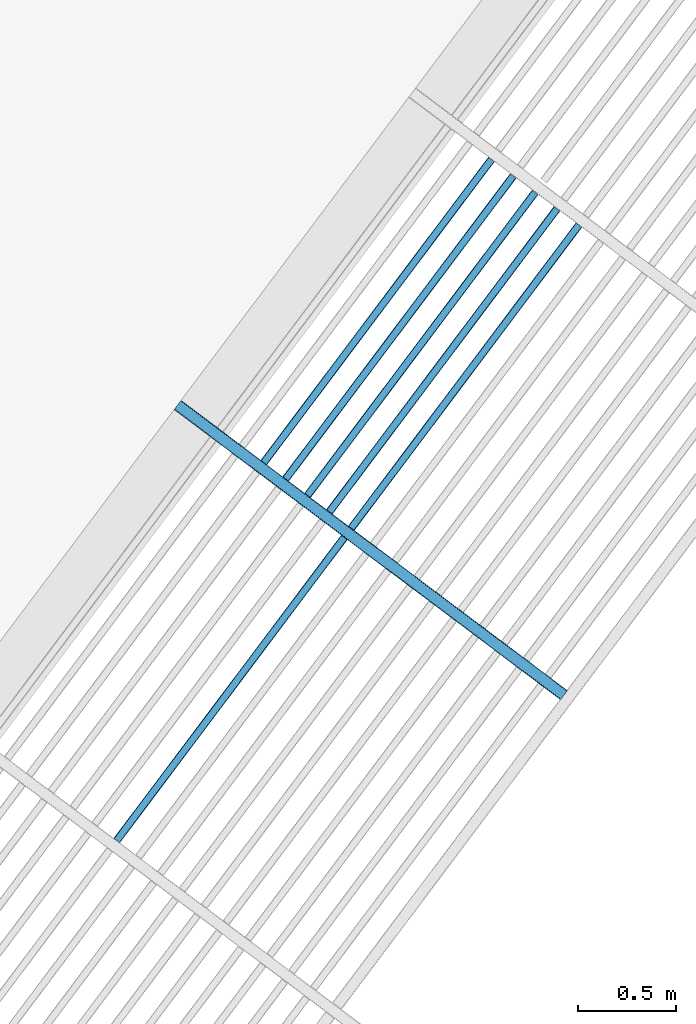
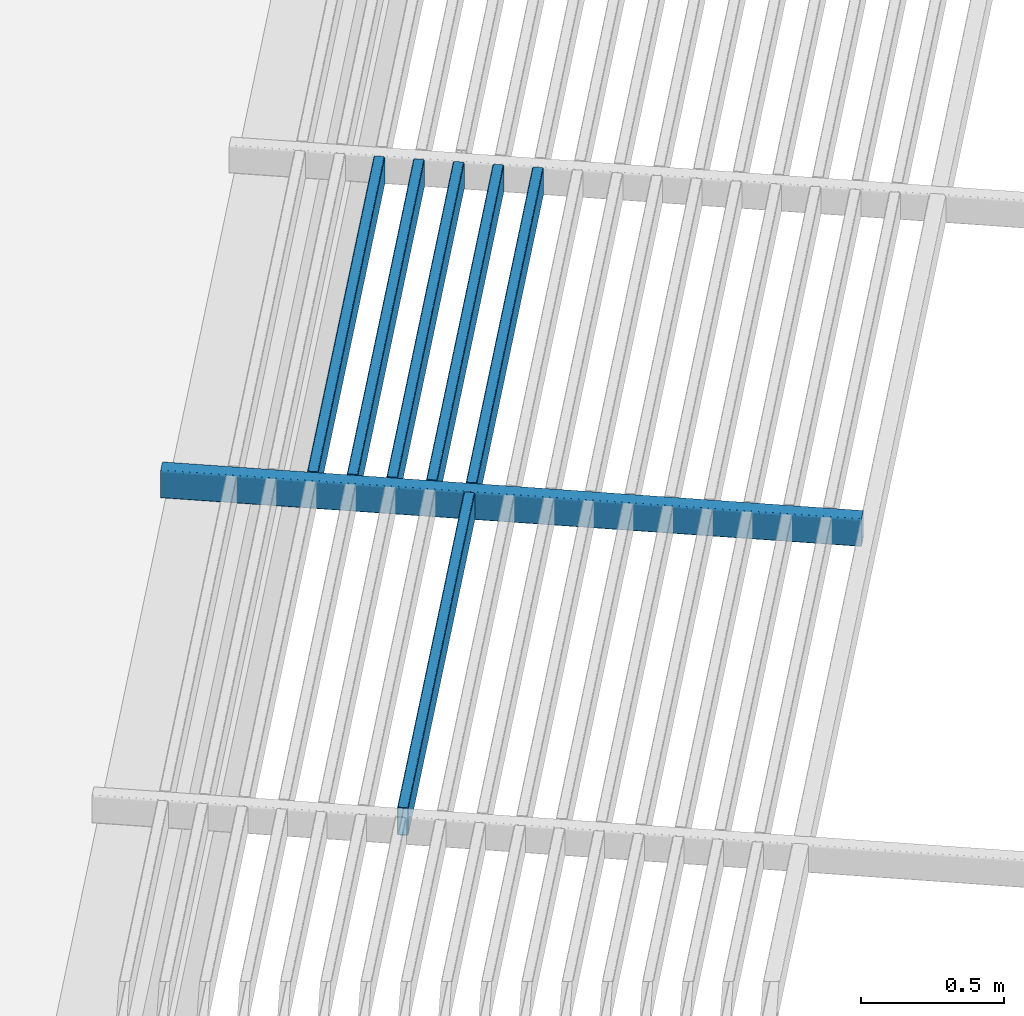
# One storey, part 53 of 95: 7 beams.
"""IFC2X3 building model written with IfcOpenShell, lengths in metres."""

from ifc_helpers import new_model, entity, si_unit, converted_unit, derived_unit, direction, frame, frame_2d, origin, place, context, subcontext, project, spatial, polyline, circle_curve, parameter, trimmed, segment, composite_curve, outline, extrude, material, type_object, element, save


model = new_model("IFC2X3")

# Units and contexts
model_context = context("Model", 3, precision=1e-05, world=origin(), true_north=direction((6.123031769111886e-17, 1.0)))
body_context = subcontext(model_context, "Body", "Model", "MODEL_VIEW")
ifc_project = project(units=[si_unit("LENGTHUNIT", "METRE"), si_unit("AREAUNIT", "SQUARE_METRE"), si_unit("VOLUMEUNIT", "CUBIC_METRE"), converted_unit("PLANEANGLEUNIT", "DEGREE", entity("IfcRatioMeasure", 0.017453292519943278), si_unit("PLANEANGLEUNIT", "RADIAN"), dimensions=[0, 0, 0, 0, 0, 0, 0]), si_unit("MASSUNIT", "GRAM", prefix="KILO"), derived_unit("MASSDENSITYUNIT", [(si_unit("MASSUNIT", "GRAM", prefix="KILO"), 1), (si_unit("LENGTHUNIT", "METRE"), -3)]), derived_unit("IONCONCENTRATIONUNIT", [(si_unit("MASSUNIT", "GRAM", prefix="KILO"), 1), (si_unit("LENGTHUNIT", "METRE"), -3)]), derived_unit("MOMENTOFINERTIAUNIT", [(si_unit("LENGTHUNIT", "METRE"), 4)]), si_unit("TIMEUNIT", "SECOND"), si_unit("FREQUENCYUNIT", "HERTZ"), si_unit("THERMODYNAMICTEMPERATUREUNIT", "DEGREE_CELSIUS"), derived_unit("THERMALTRANSMITTANCEUNIT", [(si_unit("MASSUNIT", "GRAM", prefix="KILO"), 1), (si_unit("THERMODYNAMICTEMPERATUREUNIT", "KELVIN"), -1), (si_unit("TIMEUNIT", "SECOND"), -3)]), derived_unit("THERMALCONDUCTANCEUNIT", [(si_unit("MASSUNIT", "GRAM", prefix="KILO"), 1), (si_unit("THERMODYNAMICTEMPERATUREUNIT", "KELVIN"), -1), (si_unit("TIMEUNIT", "SECOND"), -3), (si_unit("LENGTHUNIT", "METRE"), 1)]), derived_unit("VOLUMETRICFLOWRATEUNIT", [(si_unit("LENGTHUNIT", "METRE"), 3), (si_unit("TIMEUNIT", "SECOND"), -1)]), derived_unit("MASSFLOWRATEUNIT", [(si_unit("MASSUNIT", "GRAM", prefix="KILO"), 1), (si_unit("TIMEUNIT", "SECOND"), -1)]), derived_unit("ROTATIONALFREQUENCYUNIT", [(si_unit("TIMEUNIT", "SECOND"), -1)]), si_unit("ELECTRICCURRENTUNIT", "AMPERE"), si_unit("ELECTRICVOLTAGEUNIT", "VOLT"), si_unit("POWERUNIT", "WATT"), si_unit("FORCEUNIT", "NEWTON", prefix="KILO"), si_unit("ILLUMINANCEUNIT", "LUX"), si_unit("LUMINOUSFLUXUNIT", "LUMEN"), si_unit("LUMINOUSINTENSITYUNIT", "CANDELA"), derived_unit("USERDEFINED", [(si_unit("MASSUNIT", "GRAM", prefix="KILO"), -1), (si_unit("LENGTHUNIT", "METRE"), -2), (si_unit("TIMEUNIT", "SECOND"), 3), (si_unit("LUMINOUSFLUXUNIT", "LUMEN"), 1)]), derived_unit("USERDEFINED", [(si_unit("MASSUNIT", "GRAM", prefix="KILO"), 1), (si_unit("TIMEUNIT", "SECOND"), -3), (si_unit("LENGTHUNIT", "METRE"), 3), (si_unit("ELECTRICCURRENTUNIT", "AMPERE"), -2)]), derived_unit("SOUNDPOWERUNIT", [(si_unit("MASSUNIT", "GRAM", prefix="KILO"), 1), (si_unit("TIMEUNIT", "SECOND"), -3), (si_unit("LENGTHUNIT", "METRE"), 2)]), derived_unit("SOUNDPRESSUREUNIT", [(si_unit("MASSUNIT", "GRAM", prefix="KILO"), 1), (si_unit("LENGTHUNIT", "METRE"), -1), (si_unit("TIMEUNIT", "SECOND"), -2)]), derived_unit("LINEARVELOCITYUNIT", [(si_unit("LENGTHUNIT", "METRE"), 1), (si_unit("TIMEUNIT", "SECOND"), -1)]), si_unit("PRESSUREUNIT", "PASCAL"), derived_unit("USERDEFINED", [(si_unit("MASSUNIT", "GRAM", prefix="KILO"), 1), (si_unit("LENGTHUNIT", "METRE"), -2), (si_unit("TIMEUNIT", "SECOND"), -2)]), derived_unit("LINEARFORCEUNIT", [(si_unit("MASSUNIT", "GRAM", prefix="KILO"), 1), (si_unit("TIMEUNIT", "SECOND"), -2)]), derived_unit("PLANARFORCEUNIT", [(si_unit("MASSUNIT", "GRAM", prefix="KILO"), 1), (si_unit("LENGTHUNIT", "METRE"), -1), (si_unit("TIMEUNIT", "SECOND"), -2)]), derived_unit("SPECIFICHEATCAPACITYUNIT", [(si_unit("THERMODYNAMICTEMPERATUREUNIT", "KELVIN"), -1), (si_unit("LENGTHUNIT", "METRE"), 2), (si_unit("TIMEUNIT", "SECOND"), -2)]), derived_unit("HEATINGVALUEUNIT", [(si_unit("LENGTHUNIT", "METRE"), 2), (si_unit("TIMEUNIT", "SECOND"), -2)]), derived_unit("VAPORPERMEABILITYUNIT", [(si_unit("LENGTHUNIT", "METRE"), -1), (si_unit("TIMEUNIT", "SECOND"), 1)]), derived_unit("DYNAMICVISCOSITYUNIT", [(si_unit("MASSUNIT", "GRAM", prefix="KILO"), 1), (si_unit("TIMEUNIT", "SECOND"), -1), (si_unit("LENGTHUNIT", "METRE"), -1)]), derived_unit("THERMALEXPANSIONCOEFFICIENTUNIT", [(si_unit("THERMODYNAMICTEMPERATUREUNIT", "KELVIN"), -1)]), derived_unit("MODULUSOFELASTICITYUNIT", [(si_unit("MASSUNIT", "GRAM", prefix="KILO"), 1), (si_unit("LENGTHUNIT", "METRE"), -1), (si_unit("TIMEUNIT", "SECOND"), -2)]), derived_unit("ISOTHERMALMOISTURECAPACITYUNIT", [(si_unit("LENGTHUNIT", "METRE"), 3), (si_unit("MASSUNIT", "GRAM", prefix="KILO"), -1)]), derived_unit("MOISTUREDIFFUSIVITYUNIT", [(si_unit("TIMEUNIT", "SECOND"), -1), (si_unit("LENGTHUNIT", "METRE"), 2)])], contexts=[model_context])

# Site, building, storey
site_placement = place(None, origin())
site = spatial("IfcSite", under=ifc_project, at=site_placement, Name="Default", CompositionType="ELEMENT")
building_placement = place(site_placement, frame((0.0, 0.0, 235.0), z_axis=(0.0, 0.0, 1.0), x_axis=(-0.7996477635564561, 0.6004693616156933, 0.0)))
building = spatial("IfcBuilding", under=site, at=building_placement, CompositionType="ELEMENT")
storey_placement = place(building_placement, frame((0.0, 0.0, 3.400000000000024)))
storey = spatial("IfcBuildingStorey", under=building, at=storey_placement, Name="PC- Coberta STR", CompositionType="ELEMENT", Elevation=3.400000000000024)

# Beams
ifc_material = material(Name="_Acer- STR")
beam_type_1 = type_object("IfcBeamType", Name="STR- V- Acer- RHS- Rectangular- T1:120x60RHS", PredefinedType="NOTDEFINED")
beam_1_placement = place(storey_placement, frame((64.27114768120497, -22.44678703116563, 0.49840472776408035), z_axis=(0.0, 0.0, 1.0), x_axis=(-1.0, 0.0, 0.0)))
element("IfcBeam", 1, at=beam_1_placement, inside=storey, type_object=beam_type_1, material=ifc_material, Name="STR- V- Acer- RHS- Rectangular- T1:120x60RHS", ObjectType="STR- V- Acer- RHS- Rectangular- T1:120x60RHS", context=body_context, shape_type="SweptSolid", body=[
    extrude(outline(composite_curve([segment(trimmed(circle_curve(frame_2d((-0.021999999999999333, -0.05199999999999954), x_axis=(1.0, 0.0)), 0.008), [parameter(180.0000000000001)], [parameter(269.99999999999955)], True, "PARAMETER"), True, "CONTINUOUS"), segment(polyline([(-0.022000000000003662, -0.05999999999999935), (0.021999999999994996, -0.05999999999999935)]), True, "CONTINUOUS"), segment(trimmed(circle_curve(frame_2d((0.021999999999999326, -0.05199999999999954), x_axis=(1.0, 0.0)), 0.008), [parameter(269.99999999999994)], [parameter(5.088887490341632e-14)], True, "PARAMETER"), True, "CONTINUOUS"), segment(polyline([(0.029999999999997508, -0.05199999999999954), (0.029999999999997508, 0.052000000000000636)]), True, "CONTINUOUS"), segment(trimmed(circle_curve(frame_2d((0.021999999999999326, 0.052000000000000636), x_axis=(1.0, 0.0)), 0.008), [parameter(359.99999999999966)], [parameter(89.99999999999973)], True, "PARAMETER"), True, "CONTINUOUS"), segment(polyline([(0.021999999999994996, 0.06000000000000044), (-0.022000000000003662, 0.06000000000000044)]), True, "CONTINUOUS"), segment(trimmed(circle_curve(frame_2d((-0.021999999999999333, 0.052000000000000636), x_axis=(1.0, 0.0)), 0.008), [parameter(90.00000000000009)], [parameter(180.00000000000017)], True, "PARAMETER"), True, "CONTINUOUS"), segment(polyline([(-0.030000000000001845, 0.052000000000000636), (-0.030000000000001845, -0.05199999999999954)]), True, "CONTINUOUS")], self_intersect=False), holes=[composite_curve([segment(polyline([(0.021999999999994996, -0.056000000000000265), (-0.022000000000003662, -0.056000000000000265)]), True, "CONTINUOUS"), segment(trimmed(circle_curve(frame_2d((-0.021999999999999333, -0.05200000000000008), x_axis=(1.0, 0.0)), 0.004), [parameter(179.99999999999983)], [parameter(269.9999999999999)], True, "PARAMETER"), False, "CONTINUOUS"), segment(polyline([(-0.026000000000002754, -0.05200000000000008), (-0.026000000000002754, 0.051999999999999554)]), True, "CONTINUOUS"), segment(trimmed(circle_curve(frame_2d((-0.021999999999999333, 0.051999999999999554), x_axis=(1.0, 0.0)), 0.004), [parameter(90.00000000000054)], [parameter(180.00000000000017)], True, "PARAMETER"), False, "CONTINUOUS"), segment(polyline([(-0.022000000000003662, 0.055999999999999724), (0.021999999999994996, 0.055999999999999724)]), True, "CONTINUOUS"), segment(trimmed(circle_curve(frame_2d((0.021999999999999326, 0.051999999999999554), x_axis=(1.0, 0.0)), 0.004), [parameter(0.0)], [parameter(90.00000000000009)], True, "PARAMETER"), False, "CONTINUOUS"), segment(polyline([(0.02599999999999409, 0.051999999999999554), (0.02599999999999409, -0.05200000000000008)]), True, "CONTINUOUS"), segment(trimmed(circle_curve(frame_2d((0.021999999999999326, -0.05200000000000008), x_axis=(1.0, 0.0)), 0.004), [parameter(270.00000000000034)], [parameter(3.5622212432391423e-13)], True, "PARAMETER"), False, "CONTINUOUS")], self_intersect=False)]), frame((-2.4740000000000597, -0.03159527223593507, 0.061595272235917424), z_axis=(1.0, 0.0, 0.0), x_axis=(0.0, -1.0, 0.0)), (0.0, 0.0, 1.0), 2.474000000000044),
])
beam_type_2 = type_object("IfcBeamType", Name="STR- V- Acer- RHS- Rectangular- T1:120x40RHS -", PredefinedType="NOTDEFINED")
beam_2_placement = place(storey_placement, frame((65.63355240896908, -22.38519175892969, 0.4984047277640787), z_axis=(0.0, 0.0, 1.0), x_axis=(0.0, -1.0, 0.0)))
element("IfcBeam", 2, at=beam_2_placement, inside=storey, type_object=beam_type_2, material=ifc_material, Name="STR- V- Acer- RHS- Rectangular- T1:120x40RHS -", ObjectType="STR- V- Acer- RHS- Rectangular- T1:120x40RHS -", context=body_context, shape_type="SweptSolid", body=[
    extrude(outline(composite_curve([segment(trimmed(circle_curve(frame_2d((-0.01400000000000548, -0.053999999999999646), x_axis=(1.0, 0.0)), 0.006), [parameter(180.0000000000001)], [parameter(269.99999999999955)], True, "PARAMETER"), True, "CONTINUOUS"), segment(polyline([(-0.01400000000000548, -0.0599999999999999), (0.013999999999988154, -0.0599999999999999)]), True, "CONTINUOUS"), segment(trimmed(circle_curve(frame_2d((0.013999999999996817, -0.053999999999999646), x_axis=(1.0, 0.0)), 0.006), [parameter(269.99999999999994)], [parameter(1.0177774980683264e-13)], True, "PARAMETER"), True, "CONTINUOUS"), segment(polyline([(0.019999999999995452, -0.053999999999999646), (0.019999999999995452, 0.05400000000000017)]), True, "CONTINUOUS"), segment(trimmed(circle_curve(frame_2d((0.013999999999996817, 0.05400000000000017), x_axis=(1.0, 0.0)), 0.006), [parameter(359.9999999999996)], [parameter(89.99999999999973)], True, "PARAMETER"), True, "CONTINUOUS"), segment(polyline([(0.013999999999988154, 0.059999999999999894), (-0.01400000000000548, 0.059999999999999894)]), True, "CONTINUOUS"), segment(trimmed(circle_curve(frame_2d((-0.01400000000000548, 0.05400000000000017), x_axis=(1.0, 0.0)), 0.006), [parameter(90.00000000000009)], [parameter(180.00000000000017)], True, "PARAMETER"), True, "CONTINUOUS"), segment(polyline([(-0.02000000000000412, 0.05400000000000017), (-0.02000000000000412, -0.05400000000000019)]), True, "CONTINUOUS")], self_intersect=False), holes=[composite_curve([segment(polyline([(0.013999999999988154, -0.05700000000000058), (-0.01400000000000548, -0.05700000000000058)]), True, "CONTINUOUS"), segment(trimmed(circle_curve(frame_2d((-0.01400000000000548, -0.05400000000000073), x_axis=(1.0, 0.0)), 0.003), [parameter(179.99999999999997)], [parameter(269.9999999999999)], True, "PARAMETER"), False, "CONTINUOUS"), segment(polyline([(-0.017000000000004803, -0.05400000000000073), (-0.017000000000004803, 0.05399999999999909)]), True, "CONTINUOUS"), segment(trimmed(circle_curve(frame_2d((-0.01400000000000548, 0.05399999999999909), x_axis=(1.0, 0.0)), 0.003), [parameter(90.00000000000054)], [parameter(180.0000000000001)], True, "PARAMETER"), False, "CONTINUOUS"), segment(polyline([(-0.01400000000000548, 0.056999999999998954), (0.013999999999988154, 0.056999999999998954)]), True, "CONTINUOUS"), segment(trimmed(circle_curve(frame_2d((0.013999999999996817, 0.05399999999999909), x_axis=(1.0, 0.0)), 0.003), [parameter(0.0)], [parameter(90.00000000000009)], True, "PARAMETER"), False, "CONTINUOUS"), segment(polyline([(0.016999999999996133, 0.05399999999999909), (0.016999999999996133, -0.05400000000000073)]), True, "CONTINUOUS"), segment(trimmed(circle_curve(frame_2d((0.013999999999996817, -0.05400000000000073), x_axis=(1.0, 0.0)), 0.003), [parameter(270.00000000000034)], [parameter(3.053332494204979e-13)], True, "PARAMETER"), False, "CONTINUOUS")], self_intersect=False)]), frame((-1.9399999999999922, 0.02159527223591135, 0.06159527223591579), z_axis=(1.0, 0.0, 0.0), x_axis=(0.0, -1.0, 0.0)), (0.0, 0.0, 1.0), 1.9399999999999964),
])
beam_3_placement = place(storey_placement, frame((66.19355240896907, -24.385191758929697, 0.4984047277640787), z_axis=(0.0, 0.0, 1.0), x_axis=(0.0, -1.0, 0.0)))
element("IfcBeam", 3, at=beam_3_placement, inside=storey, type_object=beam_type_2, material=ifc_material, Name="STR- V- Acer- RHS- Rectangular- T1:120x40RHS -", ObjectType="STR- V- Acer- RHS- Rectangular- T1:120x40RHS -", context=body_context, shape_type="SweptSolid", body=[
    extrude(outline(composite_curve([segment(trimmed(circle_curve(frame_2d((-0.01400000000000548, -0.053999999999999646), x_axis=(1.0, 0.0)), 0.006), [parameter(180.0000000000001)], [parameter(269.99999999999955)], True, "PARAMETER"), True, "CONTINUOUS"), segment(polyline([(-0.01400000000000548, -0.0599999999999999), (0.013999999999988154, -0.0599999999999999)]), True, "CONTINUOUS"), segment(trimmed(circle_curve(frame_2d((0.013999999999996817, -0.053999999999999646), x_axis=(1.0, 0.0)), 0.006), [parameter(269.99999999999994)], [parameter(1.0177774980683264e-13)], True, "PARAMETER"), True, "CONTINUOUS"), segment(polyline([(0.019999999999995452, -0.053999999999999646), (0.019999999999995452, 0.05400000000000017)]), True, "CONTINUOUS"), segment(trimmed(circle_curve(frame_2d((0.013999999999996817, 0.05400000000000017), x_axis=(1.0, 0.0)), 0.006), [parameter(359.9999999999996)], [parameter(89.99999999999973)], True, "PARAMETER"), True, "CONTINUOUS"), segment(polyline([(0.013999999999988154, 0.059999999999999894), (-0.01400000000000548, 0.059999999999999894)]), True, "CONTINUOUS"), segment(trimmed(circle_curve(frame_2d((-0.01400000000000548, 0.05400000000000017), x_axis=(1.0, 0.0)), 0.006), [parameter(90.00000000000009)], [parameter(180.00000000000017)], True, "PARAMETER"), True, "CONTINUOUS"), segment(polyline([(-0.02000000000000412, 0.05400000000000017), (-0.02000000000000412, -0.05400000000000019)]), True, "CONTINUOUS")], self_intersect=False), holes=[composite_curve([segment(polyline([(0.013999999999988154, -0.05700000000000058), (-0.01400000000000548, -0.05700000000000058)]), True, "CONTINUOUS"), segment(trimmed(circle_curve(frame_2d((-0.01400000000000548, -0.05400000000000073), x_axis=(1.0, 0.0)), 0.003), [parameter(179.99999999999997)], [parameter(269.9999999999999)], True, "PARAMETER"), False, "CONTINUOUS"), segment(polyline([(-0.017000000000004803, -0.05400000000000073), (-0.017000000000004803, 0.05399999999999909)]), True, "CONTINUOUS"), segment(trimmed(circle_curve(frame_2d((-0.01400000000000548, 0.05399999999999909), x_axis=(1.0, 0.0)), 0.003), [parameter(90.00000000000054)], [parameter(180.0000000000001)], True, "PARAMETER"), False, "CONTINUOUS"), segment(polyline([(-0.01400000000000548, 0.056999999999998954), (0.013999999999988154, 0.056999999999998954)]), True, "CONTINUOUS"), segment(trimmed(circle_curve(frame_2d((0.013999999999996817, 0.05399999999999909), x_axis=(1.0, 0.0)), 0.003), [parameter(0.0)], [parameter(90.00000000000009)], True, "PARAMETER"), False, "CONTINUOUS"), segment(polyline([(0.016999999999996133, 0.05399999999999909), (0.016999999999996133, -0.05400000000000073)]), True, "CONTINUOUS"), segment(trimmed(circle_curve(frame_2d((0.013999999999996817, -0.05400000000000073), x_axis=(1.0, 0.0)), 0.003), [parameter(270.00000000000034)], [parameter(3.053332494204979e-13)], True, "PARAMETER"), False, "CONTINUOUS")], self_intersect=False)]), frame((-1.9399999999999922, 0.02159527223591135, 0.06159527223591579), z_axis=(1.0, 0.0, 0.0), x_axis=(0.0, -1.0, 0.0)), (0.0, 0.0, 1.0), 1.9399999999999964),
])
beam_4_placement = place(storey_placement, frame((66.05355240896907, -24.385191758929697, 0.4984047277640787), z_axis=(0.0, 0.0, 1.0), x_axis=(0.0, -1.0, 0.0)))
element("IfcBeam", 4, at=beam_4_placement, inside=storey, type_object=beam_type_2, material=ifc_material, Name="STR- V- Acer- RHS- Rectangular- T1:120x40RHS -", ObjectType="STR- V- Acer- RHS- Rectangular- T1:120x40RHS -", context=body_context, shape_type="SweptSolid", body=[
    extrude(outline(composite_curve([segment(trimmed(circle_curve(frame_2d((-0.013999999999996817, -0.053999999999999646), x_axis=(1.0, 0.0)), 0.006), [parameter(180.0000000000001)], [parameter(269.99999999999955)], True, "PARAMETER"), True, "CONTINUOUS"), segment(polyline([(-0.013999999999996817, -0.0599999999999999), (0.013999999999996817, -0.0599999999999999)]), True, "CONTINUOUS"), segment(trimmed(circle_curve(frame_2d((0.01400000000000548, -0.053999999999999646), x_axis=(1.0, 0.0)), 0.006), [parameter(269.99999999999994)], [parameter(1.0177774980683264e-13)], True, "PARAMETER"), True, "CONTINUOUS"), segment(polyline([(0.020000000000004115, -0.053999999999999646), (0.020000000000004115, 0.05400000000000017)]), True, "CONTINUOUS"), segment(trimmed(circle_curve(frame_2d((0.01400000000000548, 0.05400000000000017), x_axis=(1.0, 0.0)), 0.006), [parameter(359.9999999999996)], [parameter(89.99999999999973)], True, "PARAMETER"), True, "CONTINUOUS"), segment(polyline([(0.013999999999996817, 0.059999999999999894), (-0.013999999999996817, 0.059999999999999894)]), True, "CONTINUOUS"), segment(trimmed(circle_curve(frame_2d((-0.013999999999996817, 0.05400000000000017), x_axis=(1.0, 0.0)), 0.006), [parameter(90.00000000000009)], [parameter(180.00000000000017)], True, "PARAMETER"), True, "CONTINUOUS"), segment(polyline([(-0.019999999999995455, 0.05400000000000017), (-0.019999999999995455, -0.05400000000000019)]), True, "CONTINUOUS")], self_intersect=False), holes=[composite_curve([segment(polyline([(0.013999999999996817, -0.05700000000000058), (-0.013999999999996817, -0.05700000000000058)]), True, "CONTINUOUS"), segment(trimmed(circle_curve(frame_2d((-0.013999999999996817, -0.05400000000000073), x_axis=(1.0, 0.0)), 0.003), [parameter(179.99999999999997)], [parameter(269.9999999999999)], True, "PARAMETER"), False, "CONTINUOUS"), segment(polyline([(-0.01699999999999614, -0.05400000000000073), (-0.01699999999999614, 0.05399999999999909)]), True, "CONTINUOUS"), segment(trimmed(circle_curve(frame_2d((-0.013999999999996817, 0.05399999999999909), x_axis=(1.0, 0.0)), 0.003), [parameter(90.00000000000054)], [parameter(180.0000000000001)], True, "PARAMETER"), False, "CONTINUOUS"), segment(polyline([(-0.013999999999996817, 0.056999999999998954), (0.013999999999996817, 0.056999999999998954)]), True, "CONTINUOUS"), segment(trimmed(circle_curve(frame_2d((0.01400000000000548, 0.05399999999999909), x_axis=(1.0, 0.0)), 0.003), [parameter(0.0)], [parameter(90.00000000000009)], True, "PARAMETER"), False, "CONTINUOUS"), segment(polyline([(0.017000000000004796, 0.05399999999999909), (0.017000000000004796, -0.05400000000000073)]), True, "CONTINUOUS"), segment(trimmed(circle_curve(frame_2d((0.01400000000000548, -0.05400000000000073), x_axis=(1.0, 0.0)), 0.003), [parameter(270.00000000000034)], [parameter(3.053332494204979e-13)], True, "PARAMETER"), False, "CONTINUOUS")], self_intersect=False)]), frame((-1.9399999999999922, 0.021595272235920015, 0.06159527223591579), z_axis=(1.0, 0.0, 0.0), x_axis=(0.0, -1.0, 0.0)), (0.0, 0.0, 1.0), 1.9399999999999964),
])
beam_5_placement = place(storey_placement, frame((65.91355240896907, -24.385191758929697, 0.4984047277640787), z_axis=(0.0, 0.0, 1.0), x_axis=(0.0, -1.0, 0.0)))
element("IfcBeam", 5, at=beam_5_placement, inside=storey, type_object=beam_type_2, material=ifc_material, Name="STR- V- Acer- RHS- Rectangular- T1:120x40RHS -", ObjectType="STR- V- Acer- RHS- Rectangular- T1:120x40RHS -", context=body_context, shape_type="SweptSolid", body=[
    extrude(outline(composite_curve([segment(trimmed(circle_curve(frame_2d((-0.013999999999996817, -0.053999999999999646), x_axis=(1.0, 0.0)), 0.006), [parameter(180.0000000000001)], [parameter(269.99999999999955)], True, "PARAMETER"), True, "CONTINUOUS"), segment(polyline([(-0.013999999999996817, -0.0599999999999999), (0.013999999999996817, -0.0599999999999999)]), True, "CONTINUOUS"), segment(trimmed(circle_curve(frame_2d((0.01400000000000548, -0.053999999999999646), x_axis=(1.0, 0.0)), 0.006), [parameter(269.99999999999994)], [parameter(1.0177774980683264e-13)], True, "PARAMETER"), True, "CONTINUOUS"), segment(polyline([(0.020000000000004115, -0.053999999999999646), (0.020000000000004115, 0.05400000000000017)]), True, "CONTINUOUS"), segment(trimmed(circle_curve(frame_2d((0.01400000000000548, 0.05400000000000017), x_axis=(1.0, 0.0)), 0.006), [parameter(359.9999999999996)], [parameter(89.99999999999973)], True, "PARAMETER"), True, "CONTINUOUS"), segment(polyline([(0.013999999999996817, 0.059999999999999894), (-0.013999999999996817, 0.059999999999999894)]), True, "CONTINUOUS"), segment(trimmed(circle_curve(frame_2d((-0.013999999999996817, 0.05400000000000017), x_axis=(1.0, 0.0)), 0.006), [parameter(90.00000000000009)], [parameter(180.00000000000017)], True, "PARAMETER"), True, "CONTINUOUS"), segment(polyline([(-0.019999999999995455, 0.05400000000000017), (-0.019999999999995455, -0.05400000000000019)]), True, "CONTINUOUS")], self_intersect=False), holes=[composite_curve([segment(polyline([(0.013999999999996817, -0.05700000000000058), (-0.013999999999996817, -0.05700000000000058)]), True, "CONTINUOUS"), segment(trimmed(circle_curve(frame_2d((-0.013999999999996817, -0.05400000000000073), x_axis=(1.0, 0.0)), 0.003), [parameter(179.99999999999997)], [parameter(269.9999999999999)], True, "PARAMETER"), False, "CONTINUOUS"), segment(polyline([(-0.01699999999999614, -0.05400000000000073), (-0.01699999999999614, 0.05399999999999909)]), True, "CONTINUOUS"), segment(trimmed(circle_curve(frame_2d((-0.013999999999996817, 0.05399999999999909), x_axis=(1.0, 0.0)), 0.003), [parameter(90.00000000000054)], [parameter(180.0000000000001)], True, "PARAMETER"), False, "CONTINUOUS"), segment(polyline([(-0.013999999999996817, 0.056999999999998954), (0.013999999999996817, 0.056999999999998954)]), True, "CONTINUOUS"), segment(trimmed(circle_curve(frame_2d((0.01400000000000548, 0.05399999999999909), x_axis=(1.0, 0.0)), 0.003), [parameter(0.0)], [parameter(90.00000000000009)], True, "PARAMETER"), False, "CONTINUOUS"), segment(polyline([(0.017000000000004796, 0.05399999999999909), (0.017000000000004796, -0.05400000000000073)]), True, "CONTINUOUS"), segment(trimmed(circle_curve(frame_2d((0.01400000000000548, -0.05400000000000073), x_axis=(1.0, 0.0)), 0.003), [parameter(270.00000000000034)], [parameter(3.053332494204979e-13)], True, "PARAMETER"), False, "CONTINUOUS")], self_intersect=False)]), frame((-1.9399999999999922, 0.021595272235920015, 0.06159527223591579), z_axis=(1.0, 0.0, 0.0), x_axis=(0.0, -1.0, 0.0)), (0.0, 0.0, 1.0), 1.9399999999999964),
])
beam_6_placement = place(storey_placement, frame((65.77355240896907, -24.385191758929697, 0.4984047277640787), z_axis=(0.0, 0.0, 1.0), x_axis=(0.0, -1.0, 0.0)))
element("IfcBeam", 6, at=beam_6_placement, inside=storey, type_object=beam_type_2, material=ifc_material, Name="STR- V- Acer- RHS- Rectangular- T1:120x40RHS -", ObjectType="STR- V- Acer- RHS- Rectangular- T1:120x40RHS -", context=body_context, shape_type="SweptSolid", body=[
    extrude(outline(composite_curve([segment(trimmed(circle_curve(frame_2d((-0.013999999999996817, -0.053999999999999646), x_axis=(1.0, 0.0)), 0.006), [parameter(180.0000000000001)], [parameter(269.99999999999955)], True, "PARAMETER"), True, "CONTINUOUS"), segment(polyline([(-0.013999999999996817, -0.0599999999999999), (0.013999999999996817, -0.0599999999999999)]), True, "CONTINUOUS"), segment(trimmed(circle_curve(frame_2d((0.01400000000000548, -0.053999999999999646), x_axis=(1.0, 0.0)), 0.006), [parameter(269.99999999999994)], [parameter(1.0177774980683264e-13)], True, "PARAMETER"), True, "CONTINUOUS"), segment(polyline([(0.020000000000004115, -0.053999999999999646), (0.020000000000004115, 0.05400000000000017)]), True, "CONTINUOUS"), segment(trimmed(circle_curve(frame_2d((0.01400000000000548, 0.05400000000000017), x_axis=(1.0, 0.0)), 0.006), [parameter(359.9999999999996)], [parameter(89.99999999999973)], True, "PARAMETER"), True, "CONTINUOUS"), segment(polyline([(0.013999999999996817, 0.059999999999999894), (-0.013999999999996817, 0.059999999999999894)]), True, "CONTINUOUS"), segment(trimmed(circle_curve(frame_2d((-0.013999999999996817, 0.05400000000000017), x_axis=(1.0, 0.0)), 0.006), [parameter(90.00000000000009)], [parameter(180.00000000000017)], True, "PARAMETER"), True, "CONTINUOUS"), segment(polyline([(-0.019999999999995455, 0.05400000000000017), (-0.019999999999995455, -0.05400000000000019)]), True, "CONTINUOUS")], self_intersect=False), holes=[composite_curve([segment(polyline([(0.013999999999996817, -0.05700000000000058), (-0.013999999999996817, -0.05700000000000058)]), True, "CONTINUOUS"), segment(trimmed(circle_curve(frame_2d((-0.013999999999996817, -0.05400000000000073), x_axis=(1.0, 0.0)), 0.003), [parameter(179.99999999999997)], [parameter(269.9999999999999)], True, "PARAMETER"), False, "CONTINUOUS"), segment(polyline([(-0.01699999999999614, -0.05400000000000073), (-0.01699999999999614, 0.05399999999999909)]), True, "CONTINUOUS"), segment(trimmed(circle_curve(frame_2d((-0.013999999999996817, 0.05399999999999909), x_axis=(1.0, 0.0)), 0.003), [parameter(90.00000000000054)], [parameter(180.0000000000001)], True, "PARAMETER"), False, "CONTINUOUS"), segment(polyline([(-0.013999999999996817, 0.056999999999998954), (0.013999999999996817, 0.056999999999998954)]), True, "CONTINUOUS"), segment(trimmed(circle_curve(frame_2d((0.01400000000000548, 0.05399999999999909), x_axis=(1.0, 0.0)), 0.003), [parameter(0.0)], [parameter(90.00000000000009)], True, "PARAMETER"), False, "CONTINUOUS"), segment(polyline([(0.017000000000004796, 0.05399999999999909), (0.017000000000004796, -0.05400000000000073)]), True, "CONTINUOUS"), segment(trimmed(circle_curve(frame_2d((0.01400000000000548, -0.05400000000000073), x_axis=(1.0, 0.0)), 0.003), [parameter(270.00000000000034)], [parameter(3.053332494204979e-13)], True, "PARAMETER"), False, "CONTINUOUS")], self_intersect=False)]), frame((-1.9399999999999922, 0.021595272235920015, 0.06159527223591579), z_axis=(1.0, 0.0, 0.0), x_axis=(0.0, -1.0, 0.0)), (0.0, 0.0, 1.0), 1.9399999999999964),
])
beam_7_placement = place(storey_placement, frame((65.63355240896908, -24.385191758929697, 0.4984047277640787), z_axis=(0.0, 0.0, 1.0), x_axis=(0.0, -1.0, 0.0)))
element("IfcBeam", 7, at=beam_7_placement, inside=storey, type_object=beam_type_2, material=ifc_material, Name="STR- V- Acer- RHS- Rectangular- T1:120x40RHS -", ObjectType="STR- V- Acer- RHS- Rectangular- T1:120x40RHS -", context=body_context, shape_type="SweptSolid", body=[
    extrude(outline(composite_curve([segment(trimmed(circle_curve(frame_2d((-0.01399999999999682, -0.053999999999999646), x_axis=(1.0, 0.0)), 0.006), [parameter(180.0000000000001)], [parameter(269.99999999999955)], True, "PARAMETER"), True, "CONTINUOUS"), segment(polyline([(-0.01399999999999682, -0.0599999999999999), (0.013999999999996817, -0.0599999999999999)]), True, "CONTINUOUS"), segment(trimmed(circle_curve(frame_2d((0.014000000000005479, -0.053999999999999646), x_axis=(1.0, 0.0)), 0.006), [parameter(269.99999999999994)], [parameter(1.0177774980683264e-13)], True, "PARAMETER"), True, "CONTINUOUS"), segment(polyline([(0.020000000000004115, -0.053999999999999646), (0.020000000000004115, 0.05400000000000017)]), True, "CONTINUOUS"), segment(trimmed(circle_curve(frame_2d((0.014000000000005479, 0.05400000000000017), x_axis=(1.0, 0.0)), 0.006), [parameter(359.9999999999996)], [parameter(89.99999999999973)], True, "PARAMETER"), True, "CONTINUOUS"), segment(polyline([(0.013999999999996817, 0.059999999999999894), (-0.01399999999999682, 0.059999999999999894)]), True, "CONTINUOUS"), segment(trimmed(circle_curve(frame_2d((-0.01399999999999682, 0.05400000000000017), x_axis=(1.0, 0.0)), 0.006), [parameter(90.00000000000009)], [parameter(180.00000000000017)], True, "PARAMETER"), True, "CONTINUOUS"), segment(polyline([(-0.019999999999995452, 0.05400000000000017), (-0.019999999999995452, -0.05400000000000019)]), True, "CONTINUOUS")], self_intersect=False), holes=[composite_curve([segment(polyline([(0.013999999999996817, -0.05700000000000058), (-0.01399999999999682, -0.05700000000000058)]), True, "CONTINUOUS"), segment(trimmed(circle_curve(frame_2d((-0.01399999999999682, -0.05400000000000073), x_axis=(1.0, 0.0)), 0.003), [parameter(179.99999999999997)], [parameter(269.9999999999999)], True, "PARAMETER"), False, "CONTINUOUS"), segment(polyline([(-0.016999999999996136, -0.05400000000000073), (-0.016999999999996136, 0.05399999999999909)]), True, "CONTINUOUS"), segment(trimmed(circle_curve(frame_2d((-0.01399999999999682, 0.05399999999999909), x_axis=(1.0, 0.0)), 0.003), [parameter(90.00000000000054)], [parameter(180.0000000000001)], True, "PARAMETER"), False, "CONTINUOUS"), segment(polyline([(-0.01399999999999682, 0.056999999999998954), (0.013999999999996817, 0.056999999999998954)]), True, "CONTINUOUS"), segment(trimmed(circle_curve(frame_2d((0.014000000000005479, 0.05399999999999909), x_axis=(1.0, 0.0)), 0.003), [parameter(0.0)], [parameter(90.00000000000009)], True, "PARAMETER"), False, "CONTINUOUS"), segment(polyline([(0.017000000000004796, 0.05399999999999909), (0.017000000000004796, -0.05400000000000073)]), True, "CONTINUOUS"), segment(trimmed(circle_curve(frame_2d((0.014000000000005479, -0.05400000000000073), x_axis=(1.0, 0.0)), 0.003), [parameter(270.00000000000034)], [parameter(3.053332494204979e-13)], True, "PARAMETER"), False, "CONTINUOUS")], self_intersect=False)]), frame((-1.9399999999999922, 0.02159527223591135, 0.06159527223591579), z_axis=(1.0, 0.0, 0.0), x_axis=(0.0, -1.0, 0.0)), (0.0, 0.0, 1.0), 1.9399999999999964),
])

save(model, "model.ifc")
